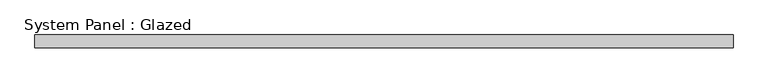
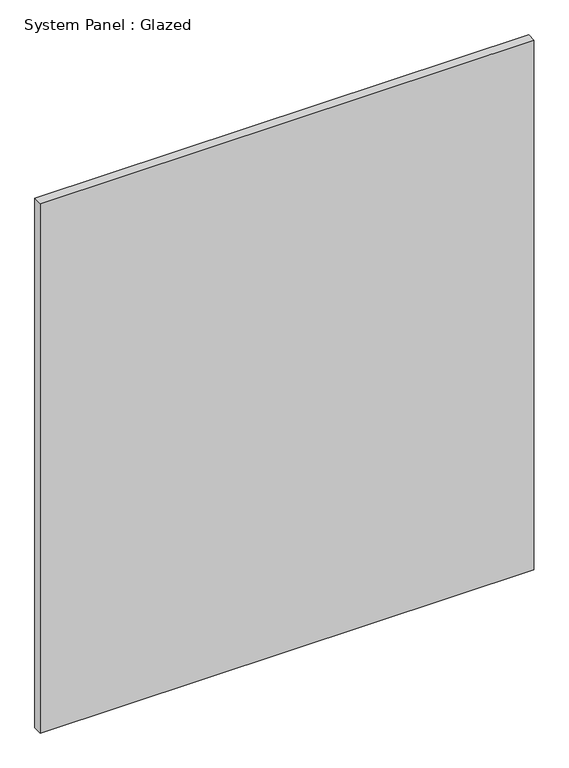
"""IFC4 building model written with IfcOpenShell, lengths in millimetres: plate geometry, System Panel : Glazed."""

from ifc_helpers import new_model, si_unit, origin, origin_with_axes, place, context, project, spatial, polyline, outline, extrude, source, transform, mapped, element, save


def system_panel_glazed_00ad768a(model_context):
    return source(origin(), model_context, "Body", "SweptSolid", [
        extrude(outline(polyline([(694.2581768, 19.05), (-694.2581768, 19.05), (-694.2581768, 44.45), (694.2581768, 44.45), (694.2581768, 19.05)])), origin_with_axes(), (0.0, 0.0, 1.0), 1574.8),
    ])


if __name__ == "__main__":
    model = new_model("IFC4")
    model_context = context("Model", 3, world=origin())
    ifc_project = project(units=[si_unit("LENGTHUNIT", "METRE", prefix="MILLI")], contexts=[model_context])
    site = spatial("IfcSite", under=ifc_project)
    building = spatial("IfcBuilding", under=site)
    placement = place(None, origin())
    system_panel_glazed_shape = system_panel_glazed_00ad768a(model_context)
    element("IfcPlate", 1, ObjectType="System Panel : Glazed", at=placement, inside=building, context=model_context, shape_type="MappedRepresentation", body=[
        mapped(system_panel_glazed_shape, transform((0.0, 0.0, 0.0), x_axis=(1.0, 0.0, 0.0), y_axis=(0.0, 1.0, 0.0), z_axis=(0.0, 0.0, 1.0))),
    ])
    save(model, "model.ifc")
